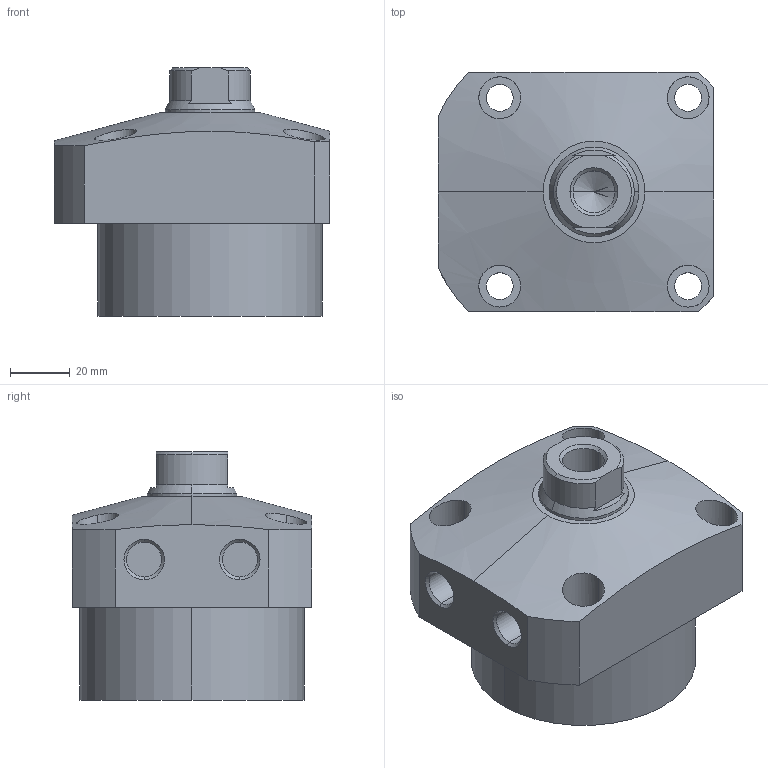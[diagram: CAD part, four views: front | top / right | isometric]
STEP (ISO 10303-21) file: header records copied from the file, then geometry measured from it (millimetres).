
FILE_DESCRIPTION (( 'STEP AP203' ), '1' );
FILE_NAME ('CLL-075CA-015.STEP', '2019-12-20T05:38:31', ( '' ), ( '' ), 'SwSTEP 2.0', 'SolidWorks 2015', '' );
FILE_SCHEMA (( 'CONFIG_CONTROL_DESIGN' ));
Length unit declared in the file: millimetre
Products named in the file (1): CLL-075CA-015
Bounding box: 92 x 80 x 83 mm (x, y, z)
Volume: 359652 mm3; surface area: 38580 mm2
Topology: 1 solids, 1 shells, 72 faces, 169 edges, 108 vertices
Faces by surface type: cylinder 35, plane 22, cone 15
Entity records: 2557 total; most frequent: CARTESIAN_POINT 792, DIRECTION 366, ORIENTED_EDGE 334, EDGE_CURVE 167, AXIS2_PLACEMENT_3D 150, VERTEX_POINT 108, EDGE_LOOP 91, CIRCLE 77
